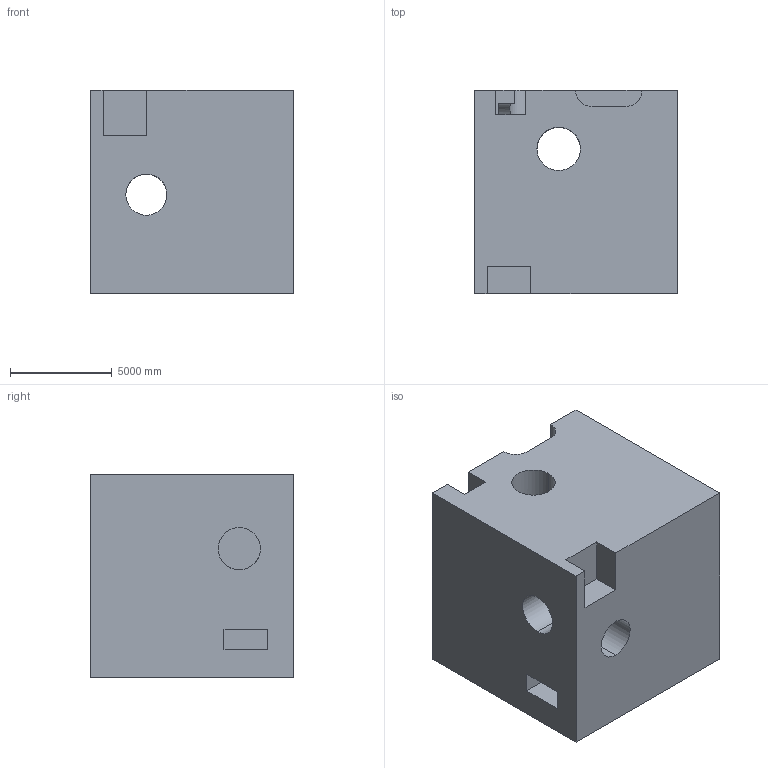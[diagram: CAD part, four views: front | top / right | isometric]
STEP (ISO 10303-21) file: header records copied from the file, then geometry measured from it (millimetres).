
FILE_DESCRIPTION (( 'STEP AP203' ), '1' );
FILE_NAME ('183.STEP', '2022-08-31T12:15:18', ( 'user' ), ( '' ), 'SwSTEP 2.0', 'SolidWorks 2021', '' );
FILE_SCHEMA (( 'CONFIG_CONTROL_DESIGN' ));
Length unit declared in the file: centimetre
Products named in the file (1): 183
Bounding box: 10000 x 10000 x 10000 mm (x, y, z)
Volume: 826970484518.1 mm3; surface area: 868346838 mm2
Topology: 1 solids, 1 shells, 47 faces, 144 edges, 96 vertices
Faces by surface type: plane 28, cylinder 19
Entity records: 3547 total; most frequent: CARTESIAN_POINT 2171, ORIENTED_EDGE 288, DIRECTION 250, EDGE_CURVE 144, VERTEX_POINT 96, VECTOR 92, LINE 92, AXIS2_PLACEMENT_3D 79
